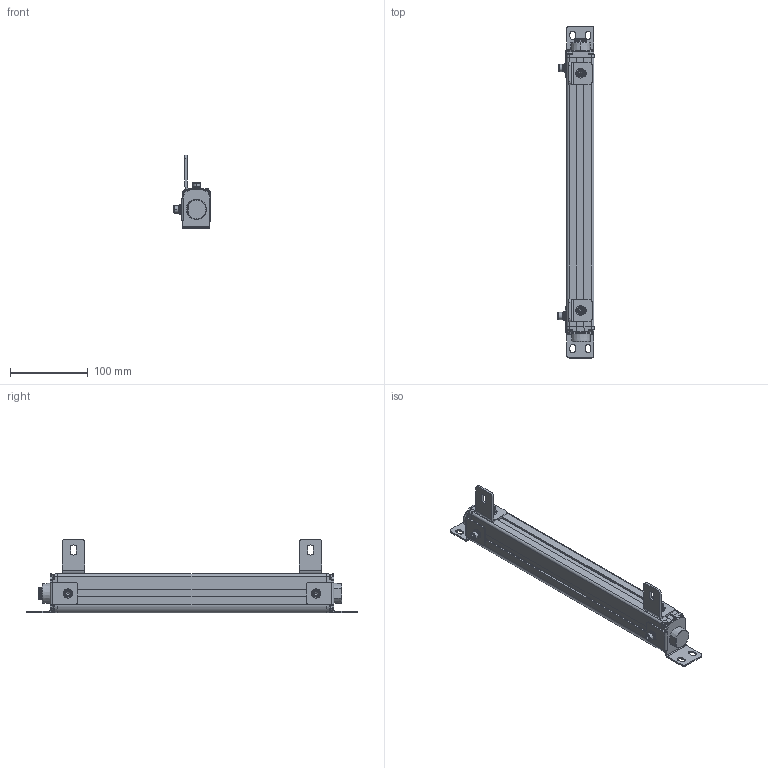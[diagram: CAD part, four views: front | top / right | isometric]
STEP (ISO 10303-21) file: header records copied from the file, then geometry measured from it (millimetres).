
FILE_DESCRIPTION((''),'2;1');
FILE_NAME('ESN--000_ASM','2021-08-10T21:13:08',('18720616900'),(''),'CREO PARAMETRIC BY PTC INC, 2019010','CREO PARAMETRIC BY PTC INC, 2019010','');
FILE_SCHEMA(('CONFIG_CONTROL_DESIGN'));
Length unit declared in the file: millimetre
Products named in the file (22): 00; 000; _0001; 4000; 4--0001; ESN_40001_ASM; L10001; M6-8--0001; M6-1--00; M6-1-00; M6-80001_ASM; L1--0001_ASM; _0002; 0005; ST-3-120001; H1--000; H1--0001_ASM; H1--0003_ASM; ESN--000_ASM
Assembly tree (34 placements, depth 4):
  ESN--000_ASM
    00
    000
    _0001
    000
    ESN_40001_ASM
      4000
      4--0001  x4
    L1--0001_ASM  x2
      L10001
      M6-80001_ASM
        M6-8--0001
        M6-1--00
        M6-1-00
        00
    _0002
    0005
    ST-3-120001  x8
    H1--0001_ASM
      H1--000
      M6-80001_ASM
        M6-8--0001
        M6-1--00
        M6-1-00
        00
    H1--0003_ASM
      H1--000
      M6-80001_ASM
        M6-8--0001
        M6-1--00
        M6-1-00
        00
Bounding box: 46.5 x 427 x 94.95 mm (x, y, z)
Volume: 578915.3 mm3; surface area: 146372.7 mm2
Topology: 39 solids, 39 shells, 1727 faces, 4555 edges, 2925 vertices
Faces by surface type: plane 541, cylinder 404, bspline 362, cone 291, torus 105, sphere 24
Entity records: 45714 total; most frequent: CARTESIAN_POINT 24222, ORIENTED_EDGE 4766, DIRECTION 3842, EDGE_CURVE 2383, VERTEX_POINT 1546, AXIS2_PLACEMENT_3D 1400, VECTOR 1042, LINE 1042
